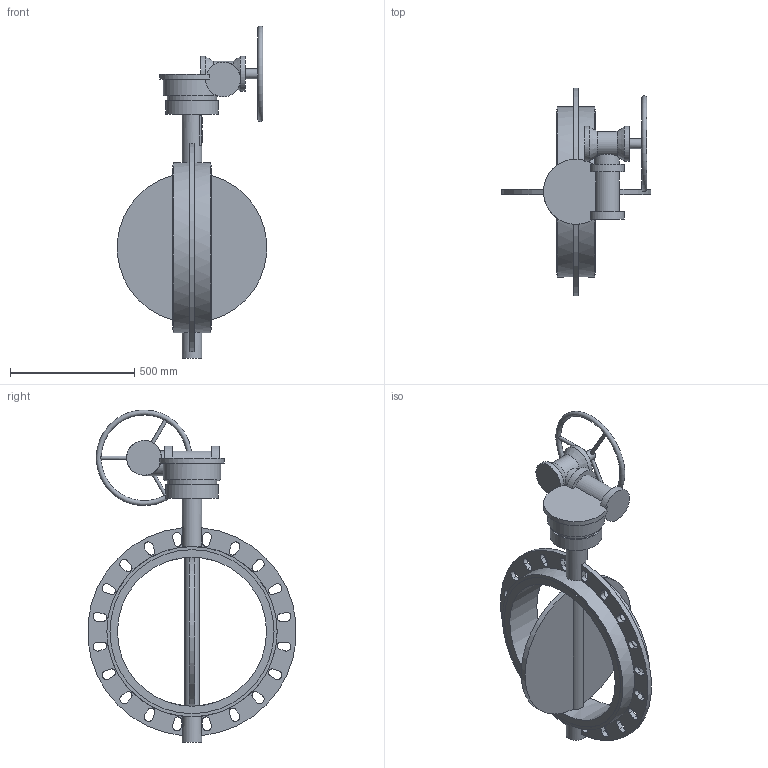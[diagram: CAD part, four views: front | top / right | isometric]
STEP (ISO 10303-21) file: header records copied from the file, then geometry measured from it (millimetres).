
FILE_DESCRIPTION(('STEP AP203'), '1');
FILE_NAME('青蜮铕 017WDN600 疱潴牝铕', '', ('UNSPECIFIED'), ('UNSPECIFIED'), 'ASCON STEP Converter 1.6', 'ASCON Math Kernel', '');
FILE_SCHEMA(('CONFIG_CONTROL_DESIGN'));
Length unit declared in the file: millimetre
Bounding box: 600.76 x 836.83 x 1335.92 mm (x, y, z)
Volume: 35602312.5 mm3; surface area: 2345949.7 mm2
Topology: 1 solids, 1 shells, 760 faces, 2170 edges, 1445 vertices
Faces by surface type: cylinder 544, plane 213, cone 2, torus 1
Full cylindrical faces by diameter (mm): 14 x3, 20 x4, 22 x4, 40 x1, 80 x2, 100 x1, 140 x2, 200 x1, 210 x1, 230 x1, 600 x1, 660 x2, 685 x2
Entity records: 33250 total; most frequent: CARTESIAN_POINT 6276, DIRECTION 4718, ORIENTED_EDGE 4282, EDGE_CURVE 2141, AXIS2_PLACEMENT_3D 1850, VERTEX_POINT 1444, CIRCLE 1089, LINE 1018
